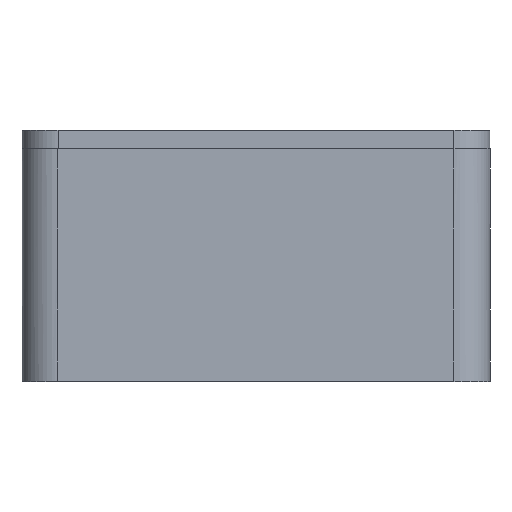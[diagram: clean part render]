
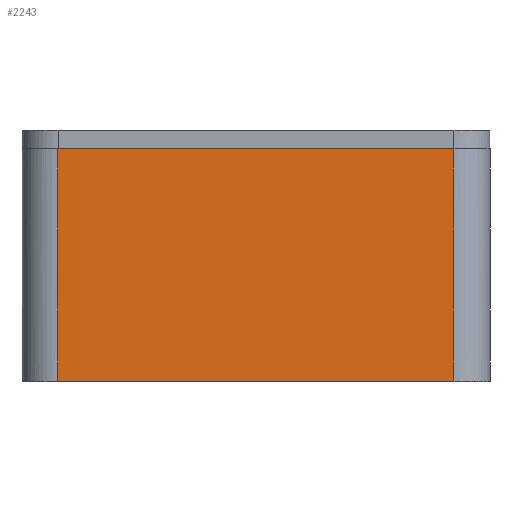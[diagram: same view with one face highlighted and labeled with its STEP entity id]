
A CAD part, front view. The second image highlights one B-rep face of the part: STEP entity #2243.
In plain terms, the highlighted planar face has unit normal (0, -1, 0).
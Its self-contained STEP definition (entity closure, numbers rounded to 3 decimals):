
#11=DIRECTION('',(0.0,0.0,1.0));
#167=CARTESIAN_POINT('',(2.,0.,13.));
#171=VERTEX_POINT('',#167);
#215=CARTESIAN_POINT('',(24.,0.,13.));
#221=VERTEX_POINT('',#215);
#224=DIRECTION('',(-1.0,0.,0.0));
#225=VECTOR('',#224,22.0);
#226=LINE('',#215,#225);
#227=EDGE_CURVE('',#221,#171,#226,.T.);
#724=DIRECTION('',(0.0,0.0,-1.0));
#864=DIRECTION('',(1.0,0.,0.0));
#865=VECTOR('',#864,22.0);
#866=CARTESIAN_POINT('',(2.,0.,0.0));
#867=LINE('',#866,#865);
#868=CARTESIAN_POINT('',(24.,0.,0.0));
#869=VERTEX_POINT('',#868);
#870=VERTEX_POINT('',#866);
#871=EDGE_CURVE('',#870,#869,#867,.T.);
#940=VECTOR('',#11,4.1);
#970=VECTOR('',#11,7.0);
#1062=VECTOR('',#11,0.1);
#1073=VECTOR('',#724,0.6);
#1079=VECTOR('',#724,7.0);
#1093=VECTOR('',#11,0.6);
#1413=VECTOR('',#724,0.1);
#1419=VECTOR('',#724,1.1);
#1424=VECTOR('',#11,1.1);
#1430=VECTOR('',#11,0.1);
#1562=VECTOR('',#724,0.1);
#1568=VECTOR('',#724,4.1);
#1905=LINE('',#167,#1562);
#1906=CARTESIAN_POINT('',(2.,0.,12.9));
#1907=VERTEX_POINT('',#1906);
#1908=EDGE_CURVE('',#171,#1907,#1905,.T.);
#1910=LINE('',#1906,#1568);
#1911=CARTESIAN_POINT('',(2.,0.,8.8));
#1912=VERTEX_POINT('',#1911);
#1913=EDGE_CURVE('',#1907,#1912,#1910,.T.);
#1915=LINE('',#1911,#1073);
#1916=CARTESIAN_POINT('',(2.,0.,8.2));
#1917=VERTEX_POINT('',#1916);
#1918=EDGE_CURVE('',#1912,#1917,#1915,.T.);
#1920=LINE('',#1916,#1079);
#1921=CARTESIAN_POINT('',(2.,0.,1.2));
#1922=VERTEX_POINT('',#1921);
#1923=EDGE_CURVE('',#1917,#1922,#1920,.T.);
#1925=LINE('',#1921,#1413);
#1926=CARTESIAN_POINT('',(2.,0.,1.1));
#1927=VERTEX_POINT('',#1926);
#1928=EDGE_CURVE('',#1922,#1927,#1925,.T.);
#1930=LINE('',#1926,#1419);
#1931=EDGE_CURVE('',#1927,#870,#1930,.T.);
#2193=LINE('',#868,#1424);
#2194=CARTESIAN_POINT('',(24.,0.,1.1));
#2195=VERTEX_POINT('',#2194);
#2196=EDGE_CURVE('',#869,#2195,#2193,.T.);
#2198=LINE('',#2194,#1430);
#2199=CARTESIAN_POINT('',(24.,0.,1.2));
#2200=VERTEX_POINT('',#2199);
#2201=EDGE_CURVE('',#2195,#2200,#2198,.T.);
#2203=LINE('',#2199,#970);
#2204=CARTESIAN_POINT('',(24.,0.,8.2));
#2205=VERTEX_POINT('',#2204);
#2206=EDGE_CURVE('',#2200,#2205,#2203,.T.);
#2208=LINE('',#2204,#1093);
#2209=CARTESIAN_POINT('',(24.,0.,8.8));
#2210=VERTEX_POINT('',#2209);
#2211=EDGE_CURVE('',#2205,#2210,#2208,.T.);
#2213=LINE('',#2209,#940);
#2214=CARTESIAN_POINT('',(24.,0.,12.9));
#2215=VERTEX_POINT('',#2214);
#2216=EDGE_CURVE('',#2210,#2215,#2213,.T.);
#2218=LINE('',#2214,#1062);
#2219=EDGE_CURVE('',#2215,#221,#2218,.T.);
#2224=DIRECTION('',(0.,-1.0,0.0));
#2225=AXIS2_PLACEMENT_3D('',#866,#2224,#864);
#2226=PLANE('',#2225);
#2227=ORIENTED_EDGE('',*,*,#227,.T.);
#2228=ORIENTED_EDGE('',*,*,#2219,.T.);
#2229=ORIENTED_EDGE('',*,*,#2216,.T.);
#2230=ORIENTED_EDGE('',*,*,#2211,.T.);
#2231=ORIENTED_EDGE('',*,*,#2206,.T.);
#2232=ORIENTED_EDGE('',*,*,#2201,.T.);
#2233=ORIENTED_EDGE('',*,*,#2196,.T.);
#2234=ORIENTED_EDGE('',*,*,#871,.T.);
#2235=ORIENTED_EDGE('',*,*,#1931,.T.);
#2236=ORIENTED_EDGE('',*,*,#1928,.T.);
#2237=ORIENTED_EDGE('',*,*,#1923,.T.);
#2238=ORIENTED_EDGE('',*,*,#1918,.T.);
#2239=ORIENTED_EDGE('',*,*,#1913,.T.);
#2240=ORIENTED_EDGE('',*,*,#1908,.T.);
#2241=EDGE_LOOP('',(#2240,#2239,#2238,#2237,#2236,#2235,#2234,#2233,#2232,#2231,#2230,#2229,#2228,#2227));
#2242=FACE_BOUND('',#2241,.T.);
#2243=ADVANCED_FACE('',(#2242),#2226,.T.);
